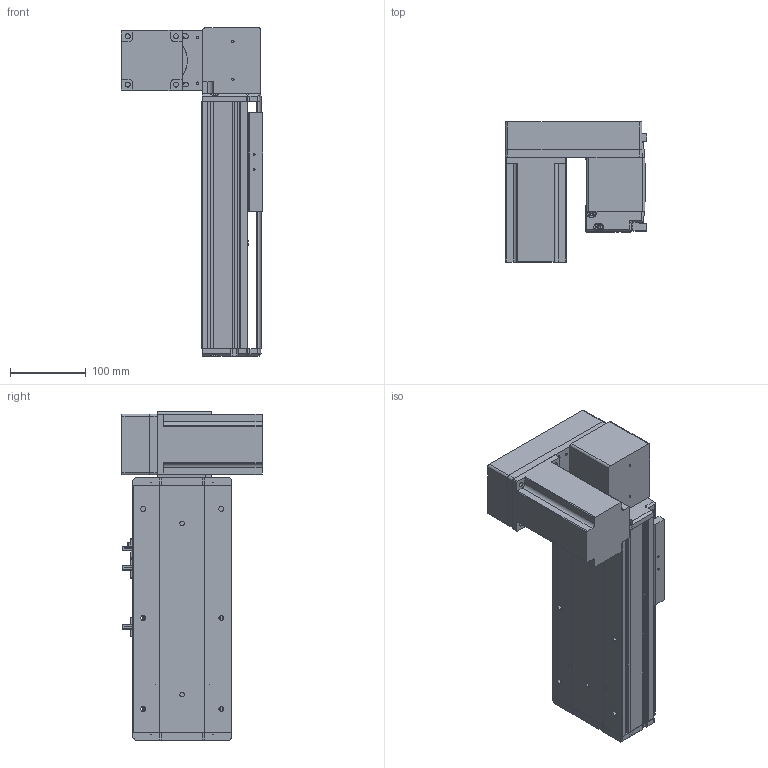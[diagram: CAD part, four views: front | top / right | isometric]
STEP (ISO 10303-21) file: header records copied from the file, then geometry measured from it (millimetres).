
FILE_DESCRIPTION (( 'STEP AP214' ), '1' );
FILE_NAME ('KSD130B-S100-MRD-CM.STEP', '2019-09-21T09:27:34', ( '微软用户' ), ( '微软中国' ), 'SwSTEP 2.0', 'SolidWorks 2014', '' );
FILE_SCHEMA (( 'AUTOMOTIVE_DESIGN' ));
Length unit declared in the file: millimetre
Products named in the file (12): 130宽端盖同步带半封闭; 130宽底板半封闭同步带-100行程; KSD130B-S100-MRD-CM; 130宽模组保护罩上下左右折-同步带; 台达ECMA－C20807AS伺服电机; 130宽模组马达安装板连板上下折丝杆同步带; 覜茼え100遵圉猾敕; U倰嫖萇EEㄜSX672; 130宽盖板半封闭同步带-100行程; 130宽马达安装板同步带右-改镜向_默认<按加工>; 130宽马达安装板同步带半封闭; 130宽同步带安装座半封闭
Assembly tree (13 placements, depth 2):
  KSD130B-S100-MRD-CM
    130宽底板半封闭同步带-100行程
    130宽端盖同步带半封闭
    130宽同步带安装座半封闭
    130宽马达安装板同步带半封闭
    130宽马达安装板同步带右-改镜向_默认<按加工>
    130宽盖板半封闭同步带-100行程
    U倰嫖萇EEㄜSX672  x3
    覜茼え100遵圉猾敕
    130宽模组马达安装板连板上下折丝杆同步带
    台达ECMA－C20807AS伺服电机
    130宽模组保护罩上下左右折-同步带
Bounding box: 186 x 184.8 x 433 mm (x, y, z)
Volume: 2538510.2 mm3; surface area: 611349.9 mm2
Topology: 14 solids, 14 shells, 1307 faces, 3625 edges, 2341 vertices
Faces by surface type: cylinder 598, plane 594, cone 115
Entity records: 40627 total; most frequent: CARTESIAN_POINT 6994, DIRECTION 6295, ORIENTED_EDGE 6006, EDGE_CURVE 3003, AXIS2_PLACEMENT_3D 2262, VERTEX_POINT 1965, VECTOR 1771, LINE 1771
